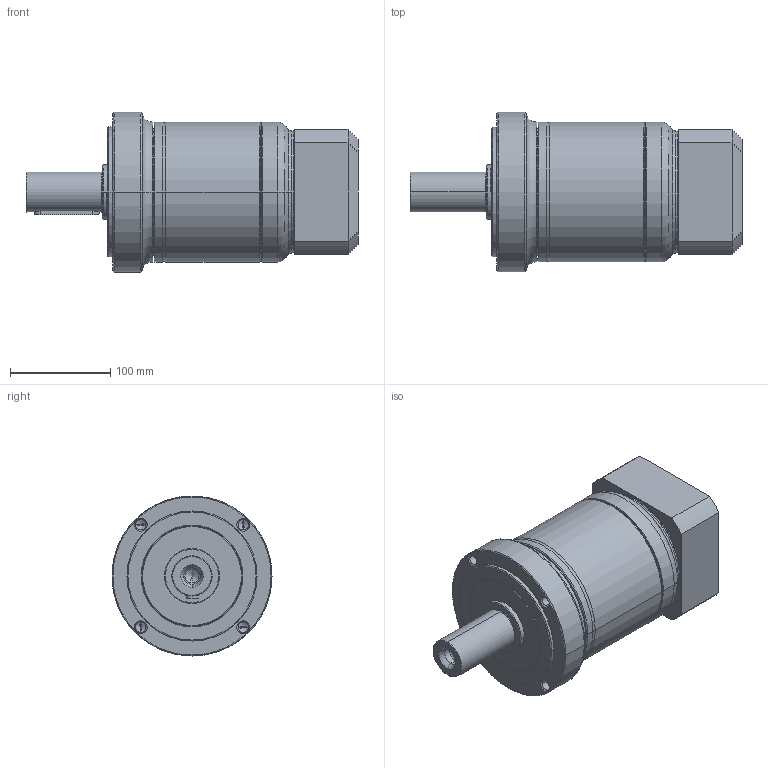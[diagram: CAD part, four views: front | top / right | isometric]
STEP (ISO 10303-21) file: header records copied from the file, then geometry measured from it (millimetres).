
FILE_DESCRIPTION((''),'2;1');
FILE_NAME('PG2-160_2ST_32-P0411700101_ASM','2016-04-13T',('d01943'),(''),'PRO/ENGINEER BY PARAMETRIC TECHNOLOGY CORPORATION, 2008410','PRO/ENGINEER BY PARAMETRIC TECHNOLOGY CORPORATION, 2008410','');
FILE_SCHEMA(('CONFIG_CONTROL_DESIGN'));
Length unit declared in the file: millimetre
Products named in the file (9): P1325510001; P0251500001; P1324500301; P0350501103; P0941503001; P0503700010; P0411700101; P1702600001; PG2-160_2ST_32-P0411700101_ASM
Assembly tree (8 placements, depth 2):
  PG2-160_2ST_32-P0411700101_ASM
    P1325510001
    P0251500001
    P1324500301
    P0350501103
    P0941503001
    P0503700010
    P0411700101
    P1702600001
Bounding box: 332 x 160 x 160 mm (x, y, z)
Volume: 2732438.6 mm3; surface area: 384291.6 mm2
Topology: 8 solids, 9 shells, 489 faces, 1077 edges, 617 vertices
Faces by surface type: cone 146, cylinder 146, torus 102, plane 79, bspline 16
Entity records: 18114 total; most frequent: CARTESIAN_POINT 7119, DIRECTION 2510, ORIENTED_EDGE 2086, AXIS2_PLACEMENT_3D 1077, EDGE_CURVE 1043, VERTEX_POINT 617, CIRCLE 587, EDGE_LOOP 552
